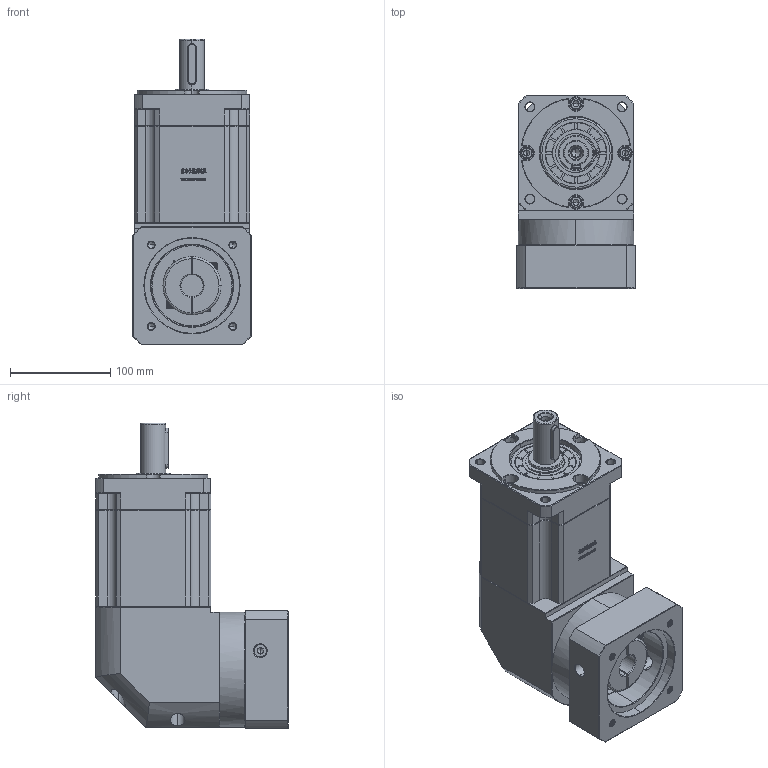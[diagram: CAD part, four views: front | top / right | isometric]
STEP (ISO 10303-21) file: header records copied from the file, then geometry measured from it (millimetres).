
FILE_DESCRIPTION (( 'STEP AP214' ), '1' );
FILE_NAME ('ZBR115A-D25-L3-22-95-115-M8.step', '2023-03-03T04:58:44', ( '' ), ( 'Microsoft' ), 'SwSTEP 2.0', 'SolidWorks 2016', '' );
FILE_SCHEMA (( 'AUTOMOTIVE_DESIGN' ));
Length unit declared in the file: millimetre
Products named in the file (1): ZBR115A-D25-L3-22-95-115-M8
Bounding box: 118 x 192.4 x 305 mm (x, y, z)
Volume: 3618111.7 mm3; surface area: 270970 mm2
Topology: 6 solids, 6 shells, 2982 faces, 7913 edges, 5077 vertices
Faces by surface type: plane 1559, bspline 607, cylinder 439, cone 369, torus 8
Entity records: 161771 total; most frequent: CARTESIAN_POINT 59803, ORIENTED_EDGE 15766, DIRECTION 11936, EDGE_CURVE 7883, LINE 5306, VECTOR 5306, VERTEX_POINT 5077, AXIS2_PLACEMENT_3D 3315
